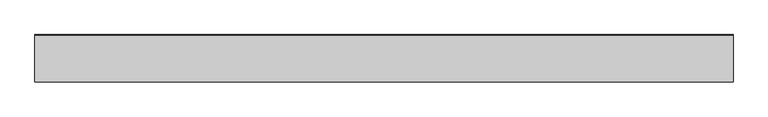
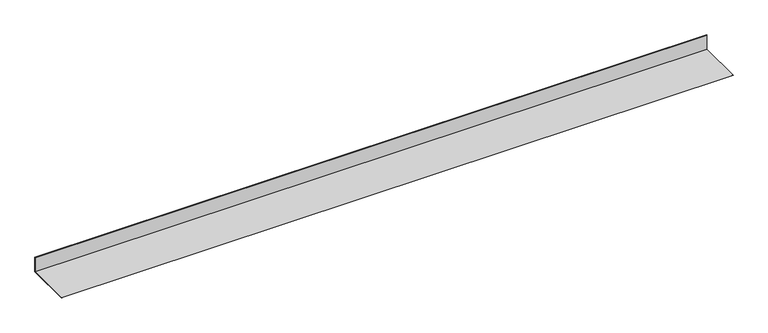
"""IFC4 building model written with IfcOpenShell, lengths in millimetres: proxy geometry, Оцинкованный уголок : 150х50х0.8."""

from ifc_helpers import new_model, si_unit, frame, origin, place, context, project, spatial, polyline, outline, extrude, source, transform, mapped, element, save


def generic_models_542c7b8f(model_context):
    return source(origin(), model_context, "Body", "SweptSolid", [
        extrude(outline(polyline([(0.0, 50.0), (0.0, 0.0), (-150.0, 0.0), (-150.0, 0.8), (-0.8, 0.8), (-0.8, 50.0), (0.0, 50.0)])), frame((0.0, 0.0, 0.0), z_axis=(1.0, 0.0, 0.0), x_axis=(0.0, 1.0, 0.0)), (0.0, 0.0, 1.0), 2210.0),
    ])


if __name__ == "__main__":
    model = new_model("IFC4")
    model_context = context("Model", 3, world=origin())
    ifc_project = project(units=[si_unit("LENGTHUNIT", "METRE", prefix="MILLI")], contexts=[model_context])
    site = spatial("IfcSite", under=ifc_project)
    building = spatial("IfcBuilding", under=site)
    placement = place(None, origin())
    generic_models_shape = generic_models_542c7b8f(model_context)
    element("IfcBuildingElementProxy", 1, Name="Оцинкованный уголок : 150х50х0.8", ObjectType="Оцинкованный уголок : 150х50х0.8", at=placement, inside=building, context=model_context, shape_type="MappedRepresentation", body=[
        mapped(generic_models_shape, transform((0.0, 0.0, 0.0), x_axis=(1.0, 0.0, 0.0), y_axis=(0.0, 1.0, 0.0), z_axis=(0.0, 0.0, 1.0))),
    ])
    save(model, "model.ifc")
